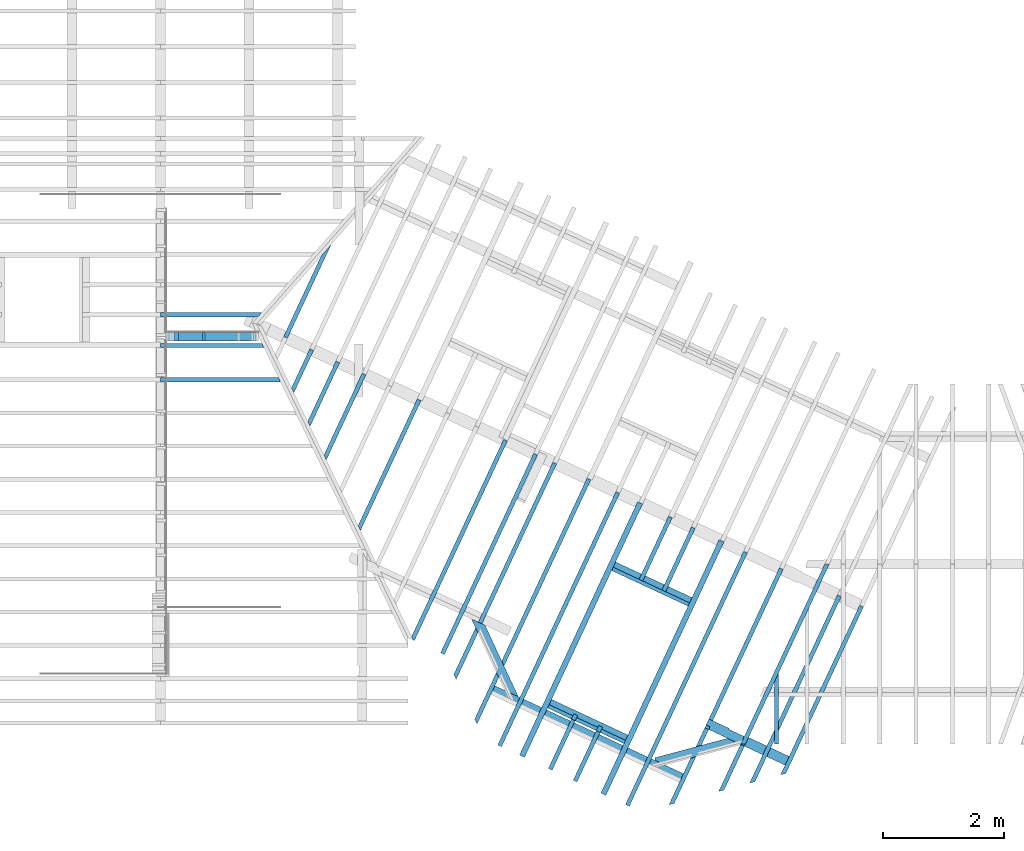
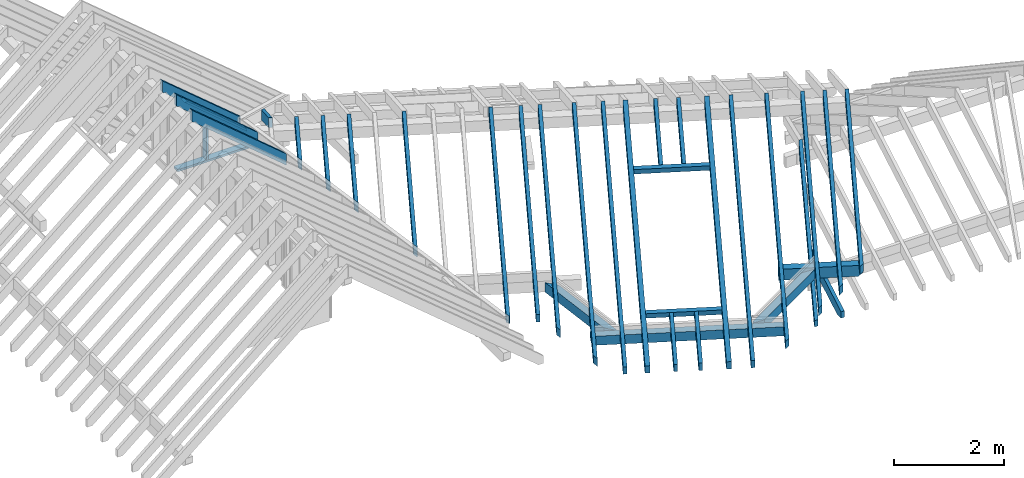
# One storey, part 3 of 11: 35 members.
"""IFC2X3 building model written with IfcOpenShell, lengths in metres."""

from ifc_helpers import new_model, si_unit, direction, frame, origin_with_axes, place, context, subcontext, project, spatial, faceted_brep, material, element, save


model = new_model("IFC2X3")

# Units and contexts
model_context = context("Model", 3, precision=1e-06, world=origin_with_axes(), true_north=direction((0.0, 1.0, 0.0)))
body_context = subcontext(model_context, "Body", "Model", "MODEL_VIEW")
ifc_project = project(units=[si_unit("LENGTHUNIT", "METRE"), si_unit("AREAUNIT", "SQUARE_METRE"), si_unit("VOLUMEUNIT", "CUBIC_METRE"), si_unit("PLANEANGLEUNIT", "RADIAN")], contexts=[model_context])

# Site, building, storey
site_placement = place(None, origin_with_axes())
site = spatial("IfcSite", under=ifc_project, at=site_placement, CompositionType="ELEMENT")
building_placement = place(site_placement, origin_with_axes())
building = spatial("IfcBuilding", under=site, at=building_placement, Name="Building 1", CompositionType="ELEMENT")
storey_placement = place(building_placement, origin_with_axes())
storey = spatial("IfcBuildingStorey", under=building, at=storey_placement, Name="Comble et couverture", CompositionType="ELEMENT", Elevation=0.0)

# Members
ifc_material_1 = material(Name="NH II")
member_1_placement = place(storey_placement, frame((13.0263456, 2.0515933, 5.8871973), z_axis=(-0.2113091, -0.4531539, 0.8660254), x_axis=(-0.3659982, -0.7848856, -0.5)))
element("IfcMember", 1, at=member_1_placement, inside=storey, material=ifc_material_1, Name="Chevron", context=body_context, shape_type="Brep", body=[
    faceted_brep([(0.2227223, -0.035, -0.096), (0.2227223, 0.035, -0.096), (5.3104192, 0.035, -0.096), (5.3104192, -0.035, -0.096), (0.2044185, -0.035, -0.0642969), (5.4036363, -0.035, -0.0421811), (5.3238574, -0.035, 0.096), (0.0, -0.035, 0.096), (0.1108513, -0.035, -0.096), (0.1495072, -0.035, -0.096), (0.0, 0.035, 0.096), (5.3238574, 0.035, 0.096), (0.2044185, 0.035, -0.0642969), (0.1495072, 0.035, -0.096), (0.1108513, 0.035, -0.096), (5.4036363, 0.035, -0.0421811)], [[[0, 1, 2, 3]], [[4, 0, 3, 5, 6, 7, 8, 9]], [[10, 7, 6, 11]], [[1, 12, 13, 14, 10, 11, 15, 2]], [[0, 4, 12, 1]], [[4, 9, 13, 12]], [[13, 9, 8, 14]], [[7, 10, 14, 8]], [[15, 5, 3, 2]], [[5, 15, 11, 6]]]),
])
ifc_material_2 = material(Name="Epicéa C24")
member_2_placement = place(storey_placement, frame((4.0705, 5.5627176, 6.5968204), z_axis=(0.0, 1.0, 0.0), x_axis=(0.0, 0.0, -1.0)))
element("IfcMember", 2, at=member_2_placement, inside=storey, material=ifc_material_2, Name="Montant", context=body_context, shape_type="Brep", body=[
    faceted_brep([(0.0377595, -0.0225, -0.0725), (0.0377595, -0.0225, 0.0725), (0.0, 0.0225, 0.0725), (0.0, 0.0225, -0.0725), (1.0525151, -0.0225, 0.0725), (1.0525151, 0.0225, 0.0725), (1.0525151, -0.0225, -0.0725), (1.0525151, 0.0225, -0.0725)], [[[0, 1, 2, 3]], [[2, 1, 4, 5]], [[1, 0, 6, 4]], [[3, 2, 5, 7]], [[0, 3, 7, 6]], [[6, 7, 5, 4]]]),
])
member_3_placement = place(storey_placement, frame((6.3001524, 5.1880687, 5.8872288), z_axis=(-0.2113091, -0.4531539, 0.8660254), x_axis=(-0.3659982, -0.7848856, -0.5)))
element("IfcMember", 3, at=member_3_placement, inside=storey, material=ifc_material_1, Name="Chevron", context=body_context, shape_type="Brep", body=[
    faceted_brep([(1.2681822, -0.035, 0.096), (1.3790334, -0.035, -0.096), (1.444989, 0.035, -0.096), (1.3341378, 0.035, 0.096), (0.2227223, -0.035, -0.096), (0.2227223, 0.035, -0.096), (0.0, -0.035, 0.096), (0.1108513, -0.035, -0.096), (0.1495702, -0.035, -0.096), (0.2044294, -0.035, -0.0643158), (0.0, 0.035, 0.096), (0.2044294, 0.035, -0.0643158), (0.1495702, 0.035, -0.096), (0.1108513, 0.035, -0.096)], [[[0, 1, 2, 3]], [[2, 1, 4, 5]], [[1, 0, 6, 7, 8, 9, 4]], [[0, 3, 10, 6]], [[3, 2, 5, 11, 12, 13, 10]], [[4, 9, 11, 5]], [[9, 8, 12, 11]], [[12, 8, 7, 13]], [[7, 6, 10, 13]]]),
])
member_4_placement = place(storey_placement, frame((9.0674669, 3.8976487, 5.8873063), z_axis=(-0.2113091, -0.4531539, 0.8660254), x_axis=(-0.3659982, -0.7848856, -0.5)))
element("IfcMember", 4, at=member_4_placement, inside=storey, material=ifc_material_1, Name="Chevron", context=body_context, shape_type="Brep", body=[
    faceted_brep([(4.2740262, 0.035, -0.0426487), (4.2740262, 0.0168114, -0.0426487), (4.2374128, -0.035, -0.0637874), (4.181619, -0.035, -0.096), (4.181619, 0.035, -0.096), (4.1451595, -0.035, 0.096), (0.0, -0.035, 0.096), (0.1108513, -0.035, -0.096), (0.1497252, -0.035, -0.096), (0.2044294, -0.035, -0.0643158), (0.2227223, -0.035, -0.096), (4.1939774, 0.0168114, 0.096), (4.1939774, 0.035, 0.096), (0.2227223, 0.035, -0.096), (0.2044294, 0.035, -0.0643158), (0.1497252, 0.035, -0.096), (0.1108513, 0.035, -0.096), (0.0, 0.035, 0.096)], [[[0, 1, 2, 3, 4]], [[3, 2, 5, 6, 7, 8, 9, 10]], [[2, 1, 11, 5]], [[1, 0, 12, 11]], [[0, 4, 13, 14, 15, 16, 17, 12]], [[4, 3, 10, 13]], [[15, 14, 9, 8]], [[14, 13, 10, 9]], [[15, 8, 7, 16]], [[17, 16, 7, 6]], [[11, 12, 17, 6, 5]]]),
])
member_5_placement = place(storey_placement, frame((11.7862144, 2.6298759, 5.8871973), z_axis=(-0.2113091, -0.4531539, 0.8660254), x_axis=(-0.3659982, -0.7848856, -0.5)))
element("IfcMember", 5, at=member_5_placement, inside=storey, material=ifc_material_1, Name="Chevron", context=body_context, shape_type="Brep", body=[
    faceted_brep([(0.2227223, -0.035, -0.096), (0.2227223, 0.035, -0.096), (1.326262, 0.035, -0.096), (1.326262, -0.035, -0.096), (0.2044185, -0.035, -0.0642969), (1.326262, -0.035, 0.096), (0.0, -0.035, 0.096), (0.1108513, -0.035, -0.096), (0.1495702, -0.035, -0.096), (0.0, 0.035, 0.096), (1.326262, 0.035, 0.096), (0.2044185, 0.035, -0.0642969), (0.1495072, 0.035, -0.096), (0.1108513, 0.035, -0.096)], [[[0, 1, 2, 3]], [[4, 0, 3, 5, 6, 7, 8]], [[9, 6, 5, 10]], [[1, 11, 12, 13, 9, 10, 2]], [[0, 4, 11, 1]], [[4, 8, 12, 11]], [[12, 8, 7, 13]], [[6, 9, 13, 7]], [[2, 10, 5, 3]]]),
])
member_6_placement = place(storey_placement, frame((7.6409385, 4.5628499, 5.8872579), z_axis=(-0.2113091, -0.4531539, 0.8660254), x_axis=(-0.3659982, -0.7848856, -0.5)))
element("IfcMember", 6, at=member_6_placement, inside=storey, material=ifc_material_1, Name="Chevron", context=body_context, shape_type="Brep", body=[
    faceted_brep([(2.772952, -0.035, -0.096), (2.8389076, 0.035, -0.096), (2.7280563, 0.035, 0.096), (2.6621007, -0.035, 0.096), (0.2227223, 0.035, -0.096), (0.2044294, 0.035, -0.0643158), (0.1496929, 0.035, -0.096), (0.1108513, 0.035, -0.096), (0.0, 0.035, 0.096), (0.2227223, -0.035, -0.096), (0.2044294, -0.035, -0.0643158), (0.1496283, -0.035, -0.096), (0.1108513, -0.035, -0.096), (0.0, -0.035, 0.096)], [[[0, 1, 2, 3]], [[2, 1, 4, 5, 6, 7, 8]], [[1, 0, 9, 4]], [[9, 10, 5, 4]], [[10, 11, 6, 5]], [[6, 11, 12, 7]], [[12, 13, 8, 7]], [[3, 2, 8, 13]], [[0, 3, 13, 12, 11, 10, 9]]]),
])
member_7_placement = place(storey_placement, frame((3.294711, 4.8519952, 7.2275995), z_axis=(0.6427876, 0.0, 0.7660444), x_axis=(0.7660444, 0.0, -0.6427876)))
element("IfcMember", 7, at=member_7_placement, inside=storey, material=ifc_material_1, Name="Chevron", context=body_context, shape_type="Brep", body=[
    faceted_brep([(0.2078259, 0.035, -0.096), (0.2397786, 0.035, -0.0691884), (0.2397786, -0.035, -0.0691884), (0.2078259, -0.035, -0.096), (0.2622762, 0.035, -0.096), (0.2622762, -0.035, -0.096), (2.7442763, -0.035, -0.096), (2.5831692, -0.035, 0.096), (0.0, -0.035, 0.096), (0.1611071, -0.035, -0.096), (2.7001299, 0.035, -0.096), (0.1611071, 0.035, -0.096), (2.5390227, 0.035, 0.096), (0.0, 0.035, 0.096)], [[[0, 1, 2, 3]], [[1, 4, 5, 2]], [[3, 2, 5, 6, 7, 8, 9]], [[5, 4, 10, 6]], [[0, 3, 9, 11]], [[10, 12, 7, 6]], [[7, 12, 13, 8]], [[1, 0, 11, 13, 12, 10, 4]], [[8, 13, 11, 9]]]),
])
member_8_placement = place(storey_placement, frame((14.2069625, 1.5010626, 5.8871973), z_axis=(-0.2113091, -0.4531539, 0.8660254), x_axis=(-0.3659982, -0.7848856, -0.5)))
element("IfcMember", 8, at=member_8_placement, inside=storey, material=ifc_material_1, Name="Chevron", context=body_context, shape_type="Brep", body=[
    faceted_brep([(4.3662057, 0.035, -0.0517983), (4.4340293, -0.035, -0.0517983), (4.2855966, -0.035, -0.096), (4.217773, 0.035, -0.096), (4.3486979, -0.035, 0.096), (0.0, -0.035, 0.096), (0.1108513, -0.035, -0.096), (0.1495072, -0.035, -0.096), (0.2044185, -0.035, -0.0642969), (0.2227223, -0.035, -0.096), (4.2808743, 0.035, 0.096), (0.2227223, 0.035, -0.096), (0.2044185, 0.035, -0.0642969), (0.1495072, 0.035, -0.096), (0.1108513, 0.035, -0.096), (0.0, 0.035, 0.096)], [[[0, 1, 2, 3]], [[2, 1, 4, 5, 6, 7, 8, 9]], [[1, 0, 10, 4]], [[0, 3, 11, 12, 13, 14, 15, 10]], [[3, 2, 9, 11]], [[9, 8, 12, 11]], [[8, 7, 13, 12]], [[13, 7, 6, 14]], [[6, 5, 15, 14]], [[4, 10, 15, 5]]]),
])
member_9_placement = place(storey_placement, frame((10.9188779, 3.0343216, 5.8871973), z_axis=(-0.2113091, -0.4531539, 0.8660254), x_axis=(-0.3659982, -0.7848856, -0.5)))
element("IfcMember", 9, at=member_9_placement, inside=storey, material=ifc_material_1, Name="Chevron", context=body_context, shape_type="Brep", body=[
    faceted_brep([(0.2227223, -0.035, -0.096), (0.2227223, 0.035, -0.096), (5.3104192, 0.035, -0.096), (5.3104192, -0.035, -0.096), (0.2044185, -0.035, -0.0642969), (5.4036363, -0.035, -0.0421811), (5.3238574, -0.035, 0.096), (0.0, -0.035, 0.096), (0.1108513, -0.035, -0.096), (0.1495072, -0.035, -0.096), (0.0, 0.035, 0.096), (5.3238574, 0.035, 0.096), (0.2044185, 0.035, -0.0642969), (0.1495072, 0.035, -0.096), (0.1108513, 0.035, -0.096), (5.4036363, 0.035, -0.0421811)], [[[0, 1, 2, 3]], [[4, 0, 3, 5, 6, 7, 8, 9]], [[10, 7, 6, 11]], [[1, 12, 13, 14, 10, 11, 15, 2]], [[0, 4, 12, 1]], [[4, 9, 13, 12]], [[13, 9, 8, 14]], [[7, 10, 14, 8]], [[15, 5, 3, 2]], [[5, 15, 11, 6]]]),
])
member_10_placement = place(storey_placement, frame((4.9341472, 5.5627176, 5.5218053), z_axis=(0.0, -1.0, 0.0), x_axis=(-1.0, 0.0, 0.0)))
element("IfcMember", 10, at=member_10_placement, inside=storey, material=ifc_material_2, Name="Montant", context=body_context, shape_type="Brep", body=[
    faceted_brep([(0.0, 0.0225, -0.0725), (1.4861473, 0.0225, -0.0725), (1.4861473, -0.0225, -0.0725), (0.0, -0.0225, -0.0725), (1.4861473, -0.0225, 0.0725), (0.0, -0.0225, 0.0725), (1.4861473, 0.0225, 0.0725), (0.0, 0.0225, 0.0725)], [[[0, 1, 2, 3]], [[3, 2, 4, 5]], [[2, 1, 6, 4]], [[7, 6, 1, 0]], [[5, 4, 6, 7]], [[5, 7, 0, 3]]]),
])
member_11_placement = place(storey_placement, frame((9.562311, 3.6668992, 5.8872086), z_axis=(-0.2113091, -0.4531539, 0.8660254), x_axis=(-0.3659982, -0.7848856, -0.5)))
element("IfcMember", 11, at=member_11_placement, inside=storey, material=ifc_material_1, Name="Chevron", context=body_context, shape_type="Brep", body=[
    faceted_brep([(4.1814236, -0.035, -0.096), (4.1814236, 0.035, -0.096), (4.2739774, 0.035, -0.0425641), (4.2739774, -0.035, -0.0425641), (0.2227223, 0.035, -0.096), (0.2044294, 0.035, -0.0643158), (0.1495072, 0.035, -0.096), (0.1108513, 0.035, -0.096), (0.0, 0.035, 0.096), (4.1939774, 0.035, 0.096), (0.2227223, -0.035, -0.096), (4.1939774, -0.035, 0.096), (0.0, -0.035, 0.096), (0.1108513, -0.035, -0.096), (0.1495072, -0.035, -0.096), (0.2044294, -0.035, -0.0643158)], [[[0, 1, 2, 3]], [[2, 1, 4, 5, 6, 7, 8, 9]], [[1, 0, 10, 4]], [[3, 2, 9, 11]], [[0, 3, 11, 12, 13, 14, 15, 10]], [[6, 5, 15, 14]], [[5, 4, 10, 15]], [[6, 14, 13, 7]], [[8, 7, 13, 12]], [[11, 9, 8, 12]]]),
])
member_12_placement = place(storey_placement, frame((13.616654, 1.7763279, 5.8871973), z_axis=(-0.2113091, -0.4531539, 0.8660254), x_axis=(-0.3659982, -0.7848856, -0.5)))
element("IfcMember", 12, at=member_12_placement, inside=storey, material=ifc_material_1, Name="Chevron", context=body_context, shape_type="Brep", body=[
    faceted_brep([(4.9166792, -0.035, -0.096), (4.8488556, 0.035, -0.096), (4.9972883, 0.035, -0.0517983), (5.0651119, -0.035, -0.0517983), (0.2227223, 0.035, -0.096), (0.2044185, 0.035, -0.0642969), (0.1495072, 0.035, -0.096), (0.1108513, 0.035, -0.096), (0.0, 0.035, 0.096), (4.9119569, 0.035, 0.096), (0.2227223, -0.035, -0.096), (4.9797805, -0.035, 0.096), (0.0, -0.035, 0.096), (0.1108513, -0.035, -0.096), (0.1495072, -0.035, -0.096), (0.2044185, -0.035, -0.0642969)], [[[0, 1, 2, 3]], [[2, 1, 4, 5, 6, 7, 8, 9]], [[1, 0, 10, 4]], [[3, 2, 9, 11]], [[0, 3, 11, 12, 13, 14, 15, 10]], [[6, 5, 15, 14]], [[5, 4, 10, 15]], [[6, 14, 13, 7]], [[8, 7, 13, 12]], [[11, 9, 8, 12]]]),
])
member_13_placement = place(storey_placement, frame((12.164706, 2.4533824, 5.8871973), z_axis=(-0.2113091, -0.4531539, 0.8660254), x_axis=(-0.3659982, -0.7848856, -0.5)))
element("IfcMember", 13, at=member_13_placement, inside=storey, material=ifc_material_1, Name="Chevron", context=body_context, shape_type="Brep", body=[
    faceted_brep([(0.2227223, -0.035, -0.096), (0.2227223, 0.035, -0.096), (1.326262, 0.035, -0.096), (1.326262, -0.035, -0.096), (0.2044185, -0.035, -0.0642969), (1.326262, -0.035, 0.096), (0.0, -0.035, 0.096), (0.1108513, -0.035, -0.096), (0.1495702, -0.035, -0.096), (0.0, 0.035, 0.096), (1.326262, 0.035, 0.096), (0.2044185, 0.035, -0.0642969), (0.1495072, 0.035, -0.096), (0.1108513, 0.035, -0.096)], [[[0, 1, 2, 3]], [[4, 0, 3, 5, 6, 7, 8]], [[9, 6, 5, 10]], [[1, 11, 12, 13, 9, 10, 2]], [[0, 4, 11, 1]], [[4, 8, 12, 11]], [[12, 8, 7, 13]], [[6, 9, 13, 7]], [[2, 10, 5, 3]]]),
])
member_14_placement = place(storey_placement, frame((9.8786124, 3.5194054, 5.8871973), z_axis=(-0.2113091, -0.4531539, 0.8660254), x_axis=(-0.3659982, -0.7848856, -0.5)))
element("IfcMember", 14, at=member_14_placement, inside=storey, material=ifc_material_1, Name="Chevron", context=body_context, shape_type="Brep", body=[
    faceted_brep([(4.6132342, 0.035, -0.0517983), (4.5454106, -0.035, -0.0517983), (4.396978, -0.035, -0.096), (4.4648016, 0.035, -0.096), (4.4600793, -0.035, 0.096), (0.0, -0.035, 0.096), (0.1108513, -0.035, -0.096), (0.1495072, -0.035, -0.096), (0.2044185, -0.035, -0.0642969), (0.2227223, -0.035, -0.096), (4.5279029, 0.035, 0.096), (0.2227223, 0.035, -0.096), (0.2044185, 0.035, -0.0642969), (0.1495072, 0.035, -0.096), (0.1108513, 0.035, -0.096), (0.0, 0.035, 0.096)], [[[0, 1, 2, 3]], [[2, 1, 4, 5, 6, 7, 8, 9]], [[1, 0, 10, 4]], [[0, 3, 11, 12, 13, 14, 15, 10]], [[3, 2, 9, 11]], [[9, 8, 12, 11]], [[8, 7, 13, 12]], [[13, 7, 6, 14]], [[6, 5, 15, 14]], [[4, 10, 15, 5]]]),
])
member_15_placement = place(storey_placement, frame((14.372263, 1.8555505, 4.5601278), z_axis=(-0.1959355, -0.420185, 0.8860327), x_axis=(-0.3744536, -0.8030183, -0.4636228)))
element("IfcMember", 15, at=member_15_placement, inside=storey, material=ifc_material_1, Name="Chevron", context=body_context, shape_type="Brep", body=[
    faceted_brep([(3.6565055, -0.035, -0.096), (3.6565055, 0.035, -0.096), (3.757454, 0.035, -0.043178), (3.7863754, -0.035, -0.0280447), (2.8097948, 0.035, -0.096), (2.8062637, 0.035, -0.0892516), (2.7933668, 0.035, -0.096), (0.1884349, 0.035, -0.096), (0.1849037, 0.035, -0.0892516), (0.1720069, 0.035, -0.096), (0.0925467, 0.035, -0.096), (0.0, 0.035, 0.0808666), (3.6925467, 0.035, 0.0808667), (2.8466349, -0.035, -0.096), (3.7214682, -0.035, 0.096), (0.0289215, -0.035, 0.096), (0.1293868, -0.035, -0.096), (0.1720069, -0.035, -0.096), (0.2138252, -0.035, -0.0741183), (0.225275, -0.035, -0.096), (2.7933668, -0.035, -0.096), (2.8351852, -0.035, -0.0741183)], [[[0, 1, 2, 3]], [[2, 1, 4, 5, 6, 7, 8, 9, 10, 11, 12]], [[1, 0, 13, 4]], [[3, 2, 12, 14]], [[0, 3, 14, 15, 16, 17, 18, 19, 20, 21, 13]], [[14, 12, 11, 15]], [[6, 5, 21, 20]], [[5, 4, 13, 21]], [[6, 20, 19, 7]], [[16, 15, 11, 10]], [[19, 18, 8, 7]], [[18, 17, 9, 8]], [[16, 10, 9, 17]]]),
])
member_16_placement = place(storey_placement, frame((6.7319117, 4.986736, 5.8872191), z_axis=(-0.2113091, -0.4531539, 0.8660254), x_axis=(-0.3659982, -0.7848856, -0.5)))
element("IfcMember", 16, at=member_16_placement, inside=storey, material=ifc_material_1, Name="Chevron", context=body_context, shape_type="Brep", body=[
    faceted_brep([(1.7170512, -0.035, 0.096), (1.8279024, -0.035, -0.096), (1.893858, 0.035, -0.096), (1.7830068, 0.035, 0.096), (0.2227223, -0.035, -0.096), (0.2227223, 0.035, -0.096), (0.0, -0.035, 0.096), (0.1108513, -0.035, -0.096), (0.1495072, -0.035, -0.096), (0.2044294, -0.035, -0.0643158), (0.1495072, 0.035, -0.096), (0.2044294, 0.035, -0.0643158), (0.1108513, 0.035, -0.096), (0.0, 0.035, 0.096)], [[[0, 1, 2, 3]], [[2, 1, 4, 5]], [[1, 0, 6, 7, 8, 9, 4]], [[10, 11, 9, 8]], [[11, 5, 4, 9]], [[10, 8, 7, 12]], [[13, 12, 7, 6]], [[3, 2, 5, 11, 10, 12, 13]], [[0, 3, 13, 6]]]),
])
member_17_placement = place(storey_placement, frame((10.4430663, 3.2561962, 5.8871973), z_axis=(-0.2113091, -0.4531539, 0.8660254), x_axis=(-0.3659982, -0.7848856, -0.5)))
element("IfcMember", 17, at=member_17_placement, inside=storey, material=ifc_material_1, Name="Chevron", context=body_context, shape_type="Brep", body=[
    faceted_brep([(5.2166764, 0.035, -0.0517983), (5.1488528, -0.035, -0.0517983), (5.0004201, -0.035, -0.096), (5.0682438, 0.035, -0.096), (5.0635214, -0.035, 0.096), (0.0, -0.035, 0.096), (0.1108513, -0.035, -0.096), (0.1495072, -0.035, -0.096), (0.2044185, -0.035, -0.0642969), (0.2227223, -0.035, -0.096), (5.1313451, 0.035, 0.096), (0.2227223, 0.035, -0.096), (0.2044185, 0.035, -0.0642969), (0.1495072, 0.035, -0.096), (0.1108513, 0.035, -0.096), (0.0, 0.035, 0.096)], [[[0, 1, 2, 3]], [[2, 1, 4, 5, 6, 7, 8, 9]], [[1, 0, 10, 4]], [[0, 3, 11, 12, 13, 14, 15, 10]], [[3, 2, 9, 11]], [[9, 8, 12, 11]], [[8, 7, 13, 12]], [[13, 7, 6, 14]], [[6, 5, 15, 14]], [[4, 10, 15, 5]]]),
])
member_18_placement = place(storey_placement, frame((5.8683932, 5.3894013, 5.8872288), z_axis=(-0.2113091, -0.4531539, 0.8660254), x_axis=(-0.3659982, -0.7848856, -0.5)))
element("IfcMember", 18, at=member_18_placement, inside=storey, material=ifc_material_1, Name="Chevron", context=body_context, shape_type="Brep", body=[
    faceted_brep([(0.8193132, -0.035, 0.096), (0.9301645, -0.035, -0.096), (0.9961201, 0.035, -0.096), (0.8852688, 0.035, 0.096), (0.2227223, -0.035, -0.096), (0.2227223, 0.035, -0.096), (0.0, -0.035, 0.096), (0.1108513, -0.035, -0.096), (0.1495702, -0.035, -0.096), (0.2044294, -0.035, -0.0643158), (0.0, 0.035, 0.096), (0.2044294, 0.035, -0.0643158), (0.1495072, 0.035, -0.096), (0.1108513, 0.035, -0.096)], [[[0, 1, 2, 3]], [[2, 1, 4, 5]], [[1, 0, 6, 7, 8, 9, 4]], [[0, 3, 10, 6]], [[3, 2, 5, 11, 12, 13, 10]], [[4, 9, 11, 5]], [[9, 8, 12, 11]], [[12, 8, 7, 13]], [[7, 6, 10, 13]]]),
])
member_19_placement = place(storey_placement, frame((11.495451, -1.4712674, 3.4174018), z_axis=(-0.3360717, -0.0900501, 0.9375216), x_axis=(0.9055763, 0.2426485, 0.347927)))
element("IfcMember", 19, at=member_19_placement, inside=storey, material=ifc_material_1, Name="Panne", context=body_context, shape_type="Brep", body=[
    faceted_brep([(0.0, 0.08, -0.1), (0.0, 0.031434, -0.1), (0.0742227, 0.031434, 0.1), (0.0742227, 0.08, 0.1), (0.2158748, -0.08, 0.1), (1.6029909, -0.08, 0.1), (1.3996029, 0.08, 0.1), (0.141652, -0.08, -0.1), (1.3253802, 0.08, -0.1), (1.5287681, -0.08, -0.1)], [[[0, 1, 2, 3]], [[3, 2, 4, 5, 6]], [[2, 1, 7, 4]], [[0, 3, 6, 8]], [[1, 0, 8, 9, 7]], [[9, 8, 6, 5]], [[4, 7, 9, 5]]]),
])
member_20_placement = place(storey_placement, frame((4.90361, 5.5627176, 5.90825), z_axis=(0.0, -1.0, 0.0), x_axis=(-0.7660444, 0.0, 0.6427876)))
element("IfcMember", 20, at=member_20_placement, inside=storey, material=ifc_material_2, Name="Montant", context=body_context, shape_type="Brep", body=[
    faceted_brep([(0.0, 0.0225, -0.0725), (0.0377595, -0.0225, -0.0725), (0.0377595, -0.0225, 0.0725), (0.0, 0.0225, 0.0725), (1.6490443, -0.0225, -0.0725), (1.6490443, -0.0225, 0.0725), (1.7026732, 0.0225, -0.0725), (1.7026732, 0.0225, 0.0725)], [[[0, 1, 2, 3]], [[2, 1, 4, 5]], [[1, 0, 6, 4]], [[0, 3, 7, 6]], [[5, 4, 6, 7]], [[3, 2, 5, 7]]]),
])
member_21_placement = place(storey_placement, frame((6.1584424, 7.1386573, 4.8493782), z_axis=(0.2113091, 0.4531539, 0.8660254), x_axis=(-0.3659982, -0.7848856, 0.5)))
element("IfcMember", 21, at=member_21_placement, inside=storey, material=ifc_material_1, Name="Chevron", context=body_context, shape_type="Brep", body=[
    faceted_brep([(0.1108513, 0.035, 0.096), (0.0, 0.035, -0.096), (0.2759784, -0.035, -0.096), (0.3868297, -0.035, 0.096), (1.8530952, 0.035, -0.096), (1.8530952, -0.035, -0.096), (2.0758694, 0.035, 0.096), (1.9650181, 0.035, -0.096), (1.9261311, 0.035, -0.096), (1.8713542, 0.035, -0.0643745), (1.9261311, -0.035, -0.096), (1.8713542, -0.035, -0.0643745), (1.9650181, -0.035, -0.096), (2.0758694, -0.035, 0.096)], [[[0, 1, 2, 3]], [[2, 1, 4, 5]], [[1, 0, 6, 7, 8, 9, 4]], [[10, 11, 9, 8]], [[11, 5, 4, 9]], [[3, 2, 5, 11, 10, 12, 13]], [[10, 8, 7, 12]], [[12, 7, 6, 13]], [[0, 3, 13, 6]]]),
])
member_22_placement = place(storey_placement, frame((14.94016, 1.1591525, 5.88722), z_axis=(-0.2113091, -0.4531539, 0.8660254), x_axis=(-0.3659982, -0.7848856, -0.5)))
element("IfcMember", 22, at=member_22_placement, inside=storey, material=ifc_material_1, Name="Chevron", context=body_context, shape_type="Brep", body=[
    faceted_brep([(0.0, -0.035, 0.0959738), (3.5648507, -0.035, 0.0959738), (3.4970271, 0.035, 0.0959738), (0.0, 0.035, 0.096), (3.6501821, -0.035, -0.0518245), (3.5823585, 0.035, -0.0518245), (0.1108513, -0.035, -0.096), (0.1495702, -0.035, -0.096), (0.2044294, -0.035, -0.0643158), (0.222692, -0.035, -0.0959738), (3.5019255, -0.035, -0.0959738), (3.4341019, 0.035, -0.0959738), (0.222692, 0.035, -0.0959738), (0.2044294, 0.035, -0.0643158), (0.1495702, 0.035, -0.096), (0.110821, 0.035, -0.0959738)], [[[0, 1, 2, 3]], [[2, 1, 4, 5]], [[1, 0, 6, 7, 8, 9, 10, 4]], [[5, 4, 10, 11]], [[3, 2, 5, 11, 12, 13, 14, 15]], [[11, 10, 9, 12]], [[9, 8, 13, 12]], [[8, 7, 14, 13]], [[14, 7, 6, 15]], [[0, 3, 15, 6]]]),
])
member_23_placement = place(storey_placement, frame((13.519553, 0.0671488, 3.5165506), z_axis=(0.0, -0.5, 0.8660254), x_axis=(0.0, -0.8660254, -0.5)))
element("IfcMember", 23, at=member_23_placement, inside=storey, material=ifc_material_1, Name="Chevron", context=body_context, shape_type="Brep", body=[
    faceted_brep([(0.0, 0.035, 0.096), (0.1733384, -0.035, 0.096), (1.3597201, -0.035, 0.096), (1.3597201, 0.035, 0.096), (0.2841897, -0.035, -0.096), (1.3071663, -0.035, -0.096), (1.4297201, -0.035, -0.0252436), (0.1108513, 0.035, -0.096), (1.4297201, 0.035, -0.0252436), (1.3071663, 0.035, -0.096)], [[[0, 1, 2, 3]], [[1, 4, 5, 6, 2]], [[7, 0, 3, 8, 9]], [[4, 7, 9, 5]], [[0, 7, 4, 1]], [[6, 8, 3, 2]], [[5, 9, 8, 6]]]),
])
member_24_placement = place(storey_placement, frame((9.7738587, -0.4921685, 3.7625533), z_axis=(-0.2113091, -0.4531539, 0.8660254), x_axis=(0.9063078, -0.4226183, 0.0)))
element("IfcMember", 24, at=member_24_placement, inside=storey, material=ifc_material_1, Name="Chevetre", context=body_context, shape_type="Brep", body=[
    faceted_brep([(0.0, 0.035, -0.096), (0.0, -0.035, -0.096), (0.0, -0.035, 0.096), (0.0, 0.035, 0.096), (1.39, -0.035, -0.096), (1.39, -0.035, 0.096), (1.39, 0.035, -0.096), (1.39, 0.035, 0.096)], [[[0, 1, 2, 3]], [[2, 1, 4, 5]], [[1, 0, 6, 4]], [[5, 4, 6, 7]], [[0, 3, 7, 6]], [[3, 2, 5, 7]]]),
])
member_25_placement = place(storey_placement, frame((8.774403, -0.2394466, 3.4236496), z_axis=(0.0, 0.0, 1.0), x_axis=(0.9063078, -0.4226183, 0.0)))
element("IfcMember", 25, at=member_25_placement, inside=storey, material=ifc_material_1, Name="Panne", context=body_context, shape_type="Brep", body=[
    faceted_brep([(2.9203333, -0.08, 0.1), (2.9203333, -0.0284489, 0.1), (2.9203333, -0.08, 0.0702369), (2.8503333, -0.0284489, 0.1), (2.8503333, -0.08, 0.0702369), (2.8503333, -0.08, 0.1), (0.595, -0.08, 0.1), (0.595, -0.0284489, 0.1), (0.595, -0.08, 0.0702369), (0.525, -0.0284489, 0.1), (0.525, -0.08, 0.0702369), (0.525, -0.08, 0.1), (3.5016667, -0.08, 0.1), (3.5016667, -0.0284489, 0.1), (3.5716667, -0.0284489, 0.1), (3.5716667, 0.08, 0.1), (3.08094, 0.08, 0.1), (3.0674805, 0.0687062, 0.1), (3.0580039, 0.08, 0.1), (0.3572347, 0.08, 0.1), (0.3477581, 0.0687062, 0.1), (0.3342986, 0.08, 0.1), (0.0, 0.08, 0.1), (0.0, -0.0284489, 0.1), (0.07, -0.0284489, 0.1), (0.07, -0.08, 0.1), (0.9206193, -0.08, 0.1), (0.9206193, -0.0284489, 0.1), (1.0126193, -0.0284489, 0.1), (1.0126193, -0.08, 0.1), (1.4456193, -0.08, 0.1), (1.4456193, -0.0284489, 0.1), (1.5156193, -0.0284489, 0.1), (1.5156193, -0.08, 0.1), (1.8996193, -0.08, 0.1), (1.8996193, -0.0284489, 0.1), (1.9696193, -0.0284489, 0.1), (1.9696193, -0.08, 0.1), (2.4026193, -0.08, 0.1), (2.4026193, -0.0284489, 0.1), (2.4946193, -0.0284489, 0.1), (2.4946193, -0.08, 0.1), (0.9206193, -0.08, 0.0702369), (1.0126193, -0.08, 0.0702369), (1.4456193, -0.08, 0.0702369), (1.5156193, -0.08, 0.0702369), (1.8996193, -0.08, 0.0702369), (1.9696193, -0.08, 0.0702369), (2.4946193, -0.08, 0.0702369), (2.4026193, -0.08, 0.0702369), (0.0666667, 0.08, -0.1), (0.0666667, -0.08, -0.1), (0.0, -0.08, -0.0333333), (0.0, 0.08, -0.0333333), (0.0, -0.08, 0.0702975), (0.07, -0.08, 0.0702369), (3.0674805, 0.0687062, -0.1), (3.0580039, 0.08, -0.1), (3.08094, 0.08, -0.1), (3.505, -0.08, -0.1), (0.3342986, 0.08, -0.1), (0.3477581, 0.0687062, -0.1), (0.3572347, 0.08, -0.1), (3.505, 0.08, -0.1), (3.5716667, 0.08, -0.0333333), (3.5716667, -0.08, -0.0333333), (3.5716667, -0.08, 0.0702369), (3.5016667, -0.08, 0.0702369)], [[[0, 1, 2]], [[1, 3, 4, 2]], [[3, 5, 4]], [[6, 7, 8]], [[7, 9, 10, 8]], [[9, 11, 10]], [[3, 1, 0, 12, 13, 14, 15, 16, 17, 18, 19, 20, 21, 22, 23, 24, 25, 11, 9, 7, 6, 26, 27, 28, 29, 30, 31, 32, 33, 34, 35, 36, 37, 38, 39, 40, 41, 5]], [[28, 27, 42, 43]], [[27, 26, 42]], [[29, 28, 43]], [[44, 45, 32, 31]], [[45, 33, 32]], [[30, 44, 31]], [[35, 34, 46]], [[37, 36, 47]], [[36, 35, 46, 47]], [[48, 41, 40]], [[49, 48, 40, 39]], [[38, 49, 39]], [[50, 51, 52, 53]], [[53, 52, 54, 23, 22]], [[55, 25, 24]], [[54, 55, 24, 23]], [[18, 17, 56, 57]], [[17, 16, 58, 56]], [[59, 51, 50, 60, 61, 62, 57, 56, 58, 63]], [[58, 16, 15, 64, 63]], [[18, 57, 62, 19]], [[62, 61, 20, 19]], [[61, 60, 21, 20]], [[60, 50, 53, 22, 21]], [[12, 0, 2, 4, 5, 41, 48, 49, 38, 37, 47, 46, 34, 33, 45, 44, 30, 29, 43, 42, 26, 6, 8, 10, 11, 25, 55, 54, 52, 51, 59, 65, 66, 67]], [[65, 59, 63, 64]], [[67, 66, 14, 13]], [[12, 67, 13]], [[65, 64, 15, 14, 66]]]),
])
member_26_placement = place(storey_placement, frame((14.5735363, 1.3300541, 5.8871898), z_axis=(-0.2113091, -0.4531539, 0.8660254), x_axis=(-0.3659982, -0.7848856, -0.5)))
element("IfcMember", 26, at=member_26_placement, inside=storey, material=ifc_material_1, Name="Chevron", context=body_context, shape_type="Brep", body=[
    faceted_brep([(0.0, -0.035, 0.096), (3.9567138, -0.035, 0.0959738), (3.8888902, 0.035, 0.0959738), (0.0, 0.035, 0.0959738), (4.0420451, -0.035, -0.0518245), (3.9742215, 0.035, -0.0518245), (0.110821, -0.035, -0.0959738), (0.1495375, -0.035, -0.0959738), (0.2044034, -0.035, -0.0642969), (0.222692, -0.035, -0.0959738), (3.8937886, -0.035, -0.0959738), (3.8259649, 0.035, -0.0959738), (0.222692, 0.035, -0.0959738), (0.2044034, 0.035, -0.0642969), (0.1495375, 0.035, -0.0959738), (0.110821, 0.035, -0.0959738)], [[[0, 1, 2, 3]], [[2, 1, 4, 5]], [[1, 0, 6, 7, 8, 9, 10, 4]], [[5, 4, 10, 11]], [[3, 2, 5, 11, 12, 13, 14, 15]], [[11, 10, 9, 12]], [[9, 8, 13, 12]], [[8, 7, 14, 13]], [[14, 7, 6, 15]], [[0, 3, 15, 6]]]),
])
member_27_placement = place(storey_placement, frame((11.2874001, 2.8624769, 5.8871973), z_axis=(-0.2113091, -0.4531539, 0.8660254), x_axis=(-0.3659982, -0.7848856, -0.5)))
element("IfcMember", 27, at=member_27_placement, inside=storey, material=ifc_material_1, Name="Chevron", context=body_context, shape_type="Brep", body=[
    faceted_brep([(0.0, 0.046, 0.096), (0.0, -0.046, 0.096), (5.3238574, -0.046, 0.096), (5.3238574, 0.046, 0.096), (0.2227742, 0.046, -0.096), (0.2044185, 0.046, -0.0642969), (0.1495072, 0.046, -0.096), (0.1108513, 0.046, -0.096), (5.4036363, 0.046, -0.0421811), (5.3104192, 0.046, -0.096), (0.2227742, -0.046, -0.096), (5.3104192, -0.046, -0.096), (0.2044185, -0.046, -0.0642969), (5.4036363, -0.046, -0.0421811), (0.1108513, -0.046, -0.096), (0.1495072, -0.046, -0.096)], [[[0, 1, 2, 3]], [[4, 5, 6, 7, 0, 3, 8, 9]], [[10, 4, 9, 11]], [[12, 10, 11, 13, 2, 1, 14, 15]], [[6, 5, 12, 15]], [[5, 4, 10, 12]], [[6, 15, 14, 7]], [[7, 14, 1, 0]], [[13, 8, 3, 2]], [[13, 11, 9, 8]]]),
])
member_28_placement = place(storey_placement, frame((3.294711, 5.9235905, 7.2275995), z_axis=(0.6427876, 0.0, 0.7660444), x_axis=(0.7660444, 0.0, -0.6427876)))
element("IfcMember", 28, at=member_28_placement, inside=storey, material=ifc_material_1, Name="Chevron", context=body_context, shape_type="Brep", body=[
    faceted_brep([(2.0961881, -0.035, 0.096), (2.2572953, -0.035, -0.096), (2.3376421, 0.035, -0.096), (2.1765349, 0.035, 0.096), (0.2622762, -0.035, -0.096), (0.2622762, 0.035, -0.096), (0.0, -0.035, 0.096), (0.1611071, -0.035, -0.096), (0.2078259, -0.035, -0.096), (0.2397786, -0.035, -0.0691884), (0.0, 0.035, 0.096), (0.2397786, 0.035, -0.0691884), (0.2078259, 0.035, -0.096), (0.1611071, 0.035, -0.096)], [[[0, 1, 2, 3]], [[2, 1, 4, 5]], [[1, 0, 6, 7, 8, 9, 4]], [[0, 3, 10, 6]], [[3, 2, 5, 11, 12, 13, 10]], [[12, 11, 9, 8]], [[11, 5, 4, 9]], [[12, 8, 7, 13]], [[6, 10, 13, 7]]]),
])
member_29_placement = place(storey_placement, frame((3.294711, 5.4185905, 7.2275995), z_axis=(0.6427876, 0.0, 0.7660444), x_axis=(0.7660444, 0.0, -0.6427876)))
element("IfcMember", 29, at=member_29_placement, inside=storey, material=ifc_material_1, Name="Chevron", context=body_context, shape_type="Brep", body=[
    faceted_brep([(2.2258383, -0.035, 0.096), (2.3869455, -0.035, -0.096), (2.342799, 0.035, -0.096), (2.1816919, 0.035, 0.096), (0.2622762, -0.035, -0.096), (0.2622762, 0.035, -0.096), (0.0, -0.035, 0.096), (0.1611071, -0.035, -0.096), (0.2078259, -0.035, -0.096), (0.2397786, -0.035, -0.0691884), (0.2078259, 0.035, -0.096), (0.2397786, 0.035, -0.0691884), (0.1611071, 0.035, -0.096), (0.0, 0.035, 0.096)], [[[0, 1, 2, 3]], [[2, 1, 4, 5]], [[1, 0, 6, 7, 8, 9, 4]], [[10, 11, 9, 8]], [[11, 5, 4, 9]], [[10, 8, 7, 12]], [[0, 3, 13, 6]], [[3, 2, 5, 11, 10, 12, 13]], [[6, 13, 12, 7]]]),
])
for number, where, z_axis, x_axis, name in (
    (30, (10.1852008, -0.7174248, 3.7450533), (-0.2113091, -0.4531539, 0.8660254), (-0.3659982, -0.7848856, -0.5), "Chevron"),
    (31, (10.5966645, -0.9092935, 3.7450533), (-0.2113091, -0.4531539, 0.8660254), (-0.3659982, -0.7848856, -0.5), "Chevron"),
):
    element("IfcMember", number, at=place(storey_placement, frame(where, z_axis=z_axis, x_axis=x_axis)), inside=storey, material=ifc_material_1, Name=name, context=body_context, shape_type="Brep", body=[
        faceted_brep([(0.0, -0.035, 0.096), (0.0, -0.035, -0.096), (1.0261311, -0.035, -0.096), (1.1193481, -0.035, -0.0421811), (1.0395692, -0.035, 0.096), (0.0, 0.035, -0.096), (1.0261311, 0.035, -0.096), (0.0, 0.035, 0.096), (1.0395692, 0.035, 0.096), (1.1193481, 0.035, -0.0421811)], [[[0, 1, 2, 3, 4]], [[1, 5, 6, 2]], [[5, 7, 8, 9, 6]], [[7, 0, 4, 8]], [[0, 7, 5, 1]], [[9, 3, 2, 6]], [[3, 9, 8, 4]]]),
    ])
member_30_placement = place(storey_placement, frame((12.3688822, -0.8167103, 3.9786408), z_axis=(0.0, 0.0, 1.0), x_axis=(0.9063078, -0.4226183, 0.0)))
element("IfcMember", 32, at=member_30_placement, inside=storey, material=ifc_material_1, Name="Panne", context=body_context, shape_type="Brep", body=[
    faceted_brep([(0.0, -0.02, -0.12), (0.0, 0.08, -0.062265), (0.05, 0.08, -0.12), (0.0, 0.08, 0.12), (0.3703333, 0.08, 0.12), (0.3703333, 0.08, -0.12), (0.0, -0.08, -0.12), (0.0, -0.08, 0.090237), (0.0, -0.0284489, 0.12), (0.07, -0.0284489, 0.12), (0.07, -0.08, 0.12), (0.6513333, -0.08, 0.12), (0.6513333, -0.0284489, 0.12), (0.7213333, -0.0284489, 0.12), (0.7213333, -0.08, 0.12), (1.0558333, -0.08, 0.12), (1.0558333, -0.0285013, 0.12), (1.1258333, -0.0285013, 0.12), (1.1258333, -0.08, 0.12), (1.4603333, -0.08, 0.12), (1.4603333, -0.0285538, 0.12), (1.5303333, -0.0285538, 0.12), (1.5303333, 0.08, 0.12), (0.6513333, 0.08, 0.12), (0.6513333, 0.065, 0.12), (0.3703333, 0.065, 0.12), (1.4503333, -0.08, -0.12), (1.5303333, -0.08, -0.04), (1.5303333, -0.08, 0.0902975), (1.4603333, -0.08, 0.0902975), (1.1258333, -0.08, 0.0902672), (1.0558333, -0.08, 0.0902672), (0.7213333, -0.08, 0.090237), (0.6513333, -0.08, 0.090237), (0.07, -0.08, 0.090237), (0.3703333, 0.065, -0.12), (0.6513333, 0.065, -0.12), (0.6513333, 0.08, -0.12), (1.4503333, 0.08, -0.12), (1.5303333, 0.08, -0.04)], [[[0, 1, 2]], [[2, 1, 3, 4, 5]], [[1, 0, 6, 7, 8, 3]], [[3, 8, 9, 10, 11, 12, 13, 14, 15, 16, 17, 18, 19, 20, 21, 22, 23, 24, 25, 4]], [[7, 6, 26, 27, 28, 29, 19, 18, 30, 31, 15, 14, 32, 33, 11, 10, 34]], [[30, 18, 17]], [[31, 30, 17, 16]], [[15, 31, 16]], [[0, 2, 5, 35, 36, 37, 38, 26, 6]], [[37, 36, 24, 23]], [[35, 5, 4, 25]], [[36, 35, 25, 24]], [[23, 22, 39, 38, 37]], [[11, 33, 12]], [[33, 32, 13, 12]], [[32, 14, 13]], [[7, 34, 9, 8]], [[34, 10, 9]], [[27, 26, 38, 39]], [[27, 39, 22, 21, 28]], [[29, 28, 21, 20]], [[19, 29, 20]]]),
])
member_31_placement = place(storey_placement, frame((12.6305482, 2.2361566, 5.8871973), z_axis=(-0.2113091, -0.4531539, 0.8660254), x_axis=(-0.3659982, -0.7848856, -0.5)))
element("IfcMember", 33, at=member_31_placement, inside=storey, material=ifc_material_1, Name="Chevron", context=body_context, shape_type="Brep", body=[
    faceted_brep([(0.0, 0.046, 0.096), (0.0, -0.046, 0.096), (5.3238574, -0.046, 0.096), (5.3238574, 0.046, 0.096), (0.2227742, 0.046, -0.096), (0.2044185, 0.046, -0.0642969), (0.1495072, 0.046, -0.096), (0.1108513, 0.046, -0.096), (5.4036363, 0.046, -0.0421811), (5.3104192, 0.046, -0.096), (0.2227742, -0.046, -0.096), (5.3104192, -0.046, -0.096), (0.2044185, -0.046, -0.0642969), (5.4036363, -0.046, -0.0421811), (0.1108513, -0.046, -0.096), (0.1495072, -0.046, -0.096)], [[[0, 1, 2, 3]], [[4, 5, 6, 7, 0, 3, 8, 9]], [[10, 4, 9, 11]], [[12, 10, 11, 13, 2, 1, 14, 15]], [[6, 5, 12, 15]], [[5, 4, 10, 12]], [[6, 15, 14, 7]], [[7, 14, 1, 0]], [[13, 8, 3, 2]], [[13, 11, 9, 8]]]),
])
member_32_placement = place(storey_placement, frame((9.1984746, -0.4362502, 3.3985224), z_axis=(0.1470403, -0.315329, 0.9375216), x_axis=(-0.3962138, 0.8496831, 0.347927)))
element("IfcMember", 34, at=member_32_placement, inside=storey, material=ifc_material_1, Name="Panne", context=body_context, shape_type="Brep", body=[
    faceted_brep([(0.0, -0.08, -0.0798624), (0.0542626, -0.08, -0.1), (1.3796428, -0.08, -0.1), (1.4538655, -0.08, 0.1), (0.0667494, -0.08, 0.1), (0.0542626, -0.031434, -0.1), (0.1959146, 0.08, -0.1), (1.5830307, 0.08, -0.1), (0.2701373, 0.08, 0.1), (1.6572534, 0.08, 0.1)], [[[0, 1, 2, 3, 4]], [[1, 5, 6, 7, 2]], [[5, 0, 4, 8, 6]], [[5, 1, 0]], [[3, 2, 7, 9]], [[8, 4, 3, 9]], [[6, 8, 9, 7]]]),
])
member_33_placement = place(storey_placement, frame((10.8308709, 1.7746016, 5.2065664), z_axis=(-0.2113091, -0.4531539, 0.8660254), x_axis=(0.9063078, -0.4226183, 0.0)))
element("IfcMember", 35, at=member_33_placement, inside=storey, material=ifc_material_1, Name="Chevetre", context=body_context, shape_type="Brep", body=[
    faceted_brep([(0.0, 0.035, -0.096), (0.0, -0.035, -0.096), (0.0, -0.035, 0.096), (0.0, 0.035, 0.096), (1.39, -0.035, -0.096), (1.39, -0.035, 0.096), (1.39, 0.035, -0.096), (1.39, 0.035, 0.096)], [[[0, 1, 2, 3]], [[2, 1, 4, 5]], [[1, 0, 6, 4]], [[5, 4, 6, 7]], [[0, 3, 7, 6]], [[3, 2, 5, 7]]]),
])

save(model, "model.ifc")
